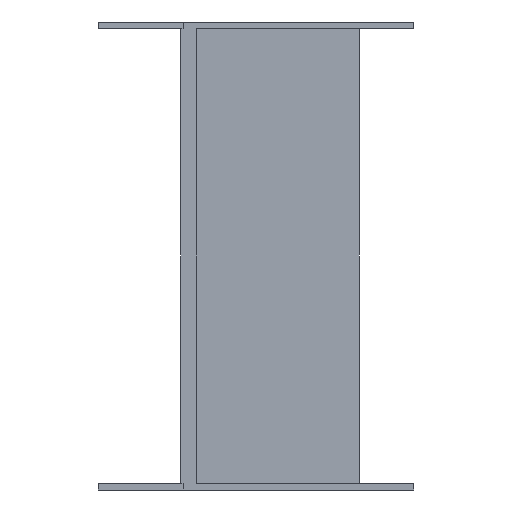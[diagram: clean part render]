
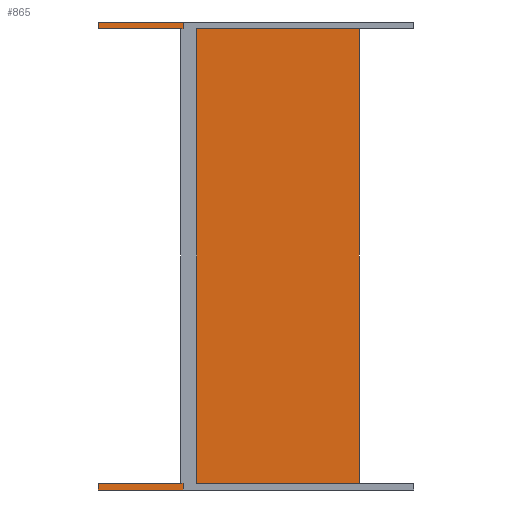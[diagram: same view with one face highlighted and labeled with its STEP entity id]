
A CAD part, left-side view. The second image highlights one B-rep face of the part: STEP entity #865.
In plain terms, the highlighted planar face has unit normal (-1, 0, 0).
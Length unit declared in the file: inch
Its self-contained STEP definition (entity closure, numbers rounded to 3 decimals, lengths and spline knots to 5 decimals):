
#45=FACE_OUTER_BOUND('',#86,.T.);
#86=EDGE_LOOP('',(#691,#692,#693,#694,#695,#696,#697,#698,#699,#700,#701,
#702,#703,#704,#705,#706,#707,#708,#709,#710,#711,#712));
#117=LINE('',#1177,#241);
#121=LINE('',#1185,#245);
#126=LINE('',#1196,#250);
#127=LINE('',#1197,#251);
#132=LINE('',#1207,#256);
#133=LINE('',#1210,#257);
#135=LINE('',#1214,#259);
#168=LINE('',#1278,#292);
#170=LINE('',#1281,#294);
#171=LINE('',#1282,#295);
#172=LINE('',#1285,#296);
#175=LINE('',#1291,#299);
#178=LINE('',#1297,#302);
#179=LINE('',#1299,#303);
#183=LINE('',#1307,#307);
#187=LINE('',#1314,#311);
#196=LINE('',#1331,#320);
#197=LINE('',#1334,#321);
#198=LINE('',#1335,#322);
#199=LINE('',#1337,#323);
#200=LINE('',#1339,#324);
#201=LINE('',#1340,#325);
#241=VECTOR('',#961,0.3937);
#245=VECTOR('',#965,0.3937);
#250=VECTOR('',#972,0.3937);
#251=VECTOR('',#973,0.3937);
#256=VECTOR('',#982,0.3937);
#257=VECTOR('',#985,0.3937);
#259=VECTOR('',#989,0.3937);
#292=VECTOR('',#1040,0.3937);
#294=VECTOR('',#1044,0.3937);
#295=VECTOR('',#1045,0.3937);
#296=VECTOR('',#1048,0.3937);
#299=VECTOR('',#1053,0.3937);
#302=VECTOR('',#1058,0.3937);
#303=VECTOR('',#1059,0.3937);
#307=VECTOR('',#1065,0.3937);
#311=VECTOR('',#1069,0.3937);
#320=VECTOR('',#1080,0.3937);
#321=VECTOR('',#1083,0.3937);
#322=VECTOR('',#1084,0.3937);
#323=VECTOR('',#1085,0.3937);
#324=VECTOR('',#1086,0.3937);
#325=VECTOR('',#1087,0.3937);
#364=VERTEX_POINT('',#1174);
#365=VERTEX_POINT('',#1176);
#368=VERTEX_POINT('',#1182);
#369=VERTEX_POINT('',#1184);
#370=VERTEX_POINT('',#1188);
#373=VERTEX_POINT('',#1193);
#374=VERTEX_POINT('',#1195);
#377=VERTEX_POINT('',#1205);
#378=VERTEX_POINT('',#1209);
#379=VERTEX_POINT('',#1213);
#401=VERTEX_POINT('',#1276);
#402=VERTEX_POINT('',#1284);
#404=VERTEX_POINT('',#1290);
#406=VERTEX_POINT('',#1296);
#407=VERTEX_POINT('',#1298);
#409=VERTEX_POINT('',#1304);
#410=VERTEX_POINT('',#1306);
#413=VERTEX_POINT('',#1312);
#420=VERTEX_POINT('',#1329);
#421=VERTEX_POINT('',#1333);
#422=VERTEX_POINT('',#1336);
#423=VERTEX_POINT('',#1338);
#443=EDGE_CURVE('',#365,#364,#117,.T.);
#447=EDGE_CURVE('',#368,#369,#121,.T.);
#452=EDGE_CURVE('',#374,#373,#126,.T.);
#453=EDGE_CURVE('',#370,#374,#127,.T.);
#458=EDGE_CURVE('',#368,#377,#132,.T.);
#459=EDGE_CURVE('',#365,#378,#133,.T.);
#461=EDGE_CURVE('',#369,#379,#135,.T.);
#494=EDGE_CURVE('',#373,#401,#168,.T.);
#496=EDGE_CURVE('',#379,#401,#170,.T.);
#497=EDGE_CURVE('',#378,#377,#171,.T.);
#498=EDGE_CURVE('',#402,#364,#172,.T.);
#501=EDGE_CURVE('',#404,#370,#175,.T.);
#504=EDGE_CURVE('',#404,#406,#178,.T.);
#505=EDGE_CURVE('',#407,#406,#179,.T.);
#509=EDGE_CURVE('',#409,#410,#183,.T.);
#513=EDGE_CURVE('',#402,#413,#187,.T.);
#522=EDGE_CURVE('',#413,#420,#196,.T.);
#523=EDGE_CURVE('',#421,#420,#197,.T.);
#524=EDGE_CURVE('',#410,#421,#198,.T.);
#525=EDGE_CURVE('',#409,#422,#199,.T.);
#526=EDGE_CURVE('',#423,#422,#200,.T.);
#527=EDGE_CURVE('',#407,#423,#201,.T.);
#691=ORIENTED_EDGE('',*,*,#513,.T.);
#692=ORIENTED_EDGE('',*,*,#522,.T.);
#693=ORIENTED_EDGE('',*,*,#523,.F.);
#694=ORIENTED_EDGE('',*,*,#524,.F.);
#695=ORIENTED_EDGE('',*,*,#509,.F.);
#696=ORIENTED_EDGE('',*,*,#525,.T.);
#697=ORIENTED_EDGE('',*,*,#526,.F.);
#698=ORIENTED_EDGE('',*,*,#527,.F.);
#699=ORIENTED_EDGE('',*,*,#505,.T.);
#700=ORIENTED_EDGE('',*,*,#504,.F.);
#701=ORIENTED_EDGE('',*,*,#501,.T.);
#702=ORIENTED_EDGE('',*,*,#453,.T.);
#703=ORIENTED_EDGE('',*,*,#452,.T.);
#704=ORIENTED_EDGE('',*,*,#494,.T.);
#705=ORIENTED_EDGE('',*,*,#496,.F.);
#706=ORIENTED_EDGE('',*,*,#461,.F.);
#707=ORIENTED_EDGE('',*,*,#447,.F.);
#708=ORIENTED_EDGE('',*,*,#458,.T.);
#709=ORIENTED_EDGE('',*,*,#497,.F.);
#710=ORIENTED_EDGE('',*,*,#459,.F.);
#711=ORIENTED_EDGE('',*,*,#443,.T.);
#712=ORIENTED_EDGE('',*,*,#498,.F.);
#825=PLANE('',#925);
#865=ADVANCED_FACE('',(#45),#825,.T.);
#925=AXIS2_PLACEMENT_3D('',#1332,#1081,#1082);
#961=DIRECTION('',(0.,1.,0.));
#965=DIRECTION('',(0.,1.,0.));
#972=DIRECTION('',(0.,1.,0.));
#973=DIRECTION('',(0.,1.,0.));
#982=DIRECTION('',(0.,0.,-1.));
#985=DIRECTION('',(0.,0.,-1.));
#989=DIRECTION('',(0.,0.,-1.));
#1040=DIRECTION('',(0.,0.,-1.));
#1044=DIRECTION('',(0.,1.,0.));
#1045=DIRECTION('',(0.,1.,0.));
#1048=DIRECTION('',(0.,0.,-1.));
#1053=DIRECTION('',(0.,0.,-1.));
#1058=DIRECTION('',(0.,1.,0.));
#1059=DIRECTION('',(0.,-1.,0.));
#1065=DIRECTION('',(0.,-1.,0.));
#1069=DIRECTION('',(0.,-1.,0.));
#1080=DIRECTION('',(0.,0.,1.));
#1081=DIRECTION('center_axis',(-1.,0.,0.));
#1082=DIRECTION('ref_axis',(0.,-1.,0.));
#1083=DIRECTION('',(0.,-1.,0.));
#1084=DIRECTION('',(0.,0.,1.));
#1085=DIRECTION('',(0.,0.,1.));
#1086=DIRECTION('',(0.,-1.,0.));
#1087=DIRECTION('',(0.,0.,1.));
#1174=CARTESIAN_POINT('',(0.,-26.,-67.));
#1176=CARTESIAN_POINT('',(0.,-31.,-67.));
#1177=CARTESIAN_POINT('',(0.,-31.,-67.));
#1182=CARTESIAN_POINT('',(0.,-4.,-67.));
#1184=CARTESIAN_POINT('',(0.,-2.,-67.));
#1185=CARTESIAN_POINT('',(0.,-26.,-67.));
#1188=CARTESIAN_POINT('',(0.,0.,-67.));
#1193=CARTESIAN_POINT('',(0.,12.5,-67.));
#1195=CARTESIAN_POINT('',(0.,0.375,-67.));
#1196=CARTESIAN_POINT('',(0.,-2.,-67.));
#1197=CARTESIAN_POINT('',(0.,0.,-67.));
#1205=CARTESIAN_POINT('',(0.,-4.,-68.));
#1207=CARTESIAN_POINT('',(0.,-4.,-67.));
#1209=CARTESIAN_POINT('',(0.,-31.,-68.));
#1210=CARTESIAN_POINT('',(0.,-31.,-67.));
#1213=CARTESIAN_POINT('',(0.,-2.,-68.));
#1214=CARTESIAN_POINT('',(0.,-2.,-67.));
#1276=CARTESIAN_POINT('',(0.,12.5,-68.));
#1278=CARTESIAN_POINT('',(0.,12.5,-67.));
#1281=CARTESIAN_POINT('',(0.,-2.,-68.));
#1282=CARTESIAN_POINT('',(0.,-31.,-68.));
#1284=CARTESIAN_POINT('',(0.,-26.,0.));
#1285=CARTESIAN_POINT('',(0.,-26.,0.));
#1290=CARTESIAN_POINT('',(0.,0.,0.));
#1291=CARTESIAN_POINT('',(0.,0.,0.));
#1296=CARTESIAN_POINT('',(0.,0.375,0.));
#1297=CARTESIAN_POINT('',(0.,0.,0.));
#1298=CARTESIAN_POINT('',(0.,12.5,0.));
#1299=CARTESIAN_POINT('',(0.,12.5,0.));
#1304=CARTESIAN_POINT('',(0.,-2.,0.));
#1306=CARTESIAN_POINT('',(0.,-4.,0.));
#1307=CARTESIAN_POINT('',(0.,-11.875,0.));
#1312=CARTESIAN_POINT('',(0.,-31.,0.));
#1314=CARTESIAN_POINT('',(0.,12.5,0.));
#1329=CARTESIAN_POINT('',(0.,-31.,1.));
#1331=CARTESIAN_POINT('',(0.,-31.,0.));
#1332=CARTESIAN_POINT('Origin',(0.,-4.,0.));
#1333=CARTESIAN_POINT('',(0.,-4.,1.));
#1334=CARTESIAN_POINT('',(0.,12.5,1.));
#1335=CARTESIAN_POINT('',(0.,-4.,0.));
#1336=CARTESIAN_POINT('',(0.,-2.,1.));
#1337=CARTESIAN_POINT('',(0.,-2.,0.));
#1338=CARTESIAN_POINT('',(0.,12.5,1.));
#1339=CARTESIAN_POINT('',(0.,12.5,1.));
#1340=CARTESIAN_POINT('',(0.,12.5,0.));
